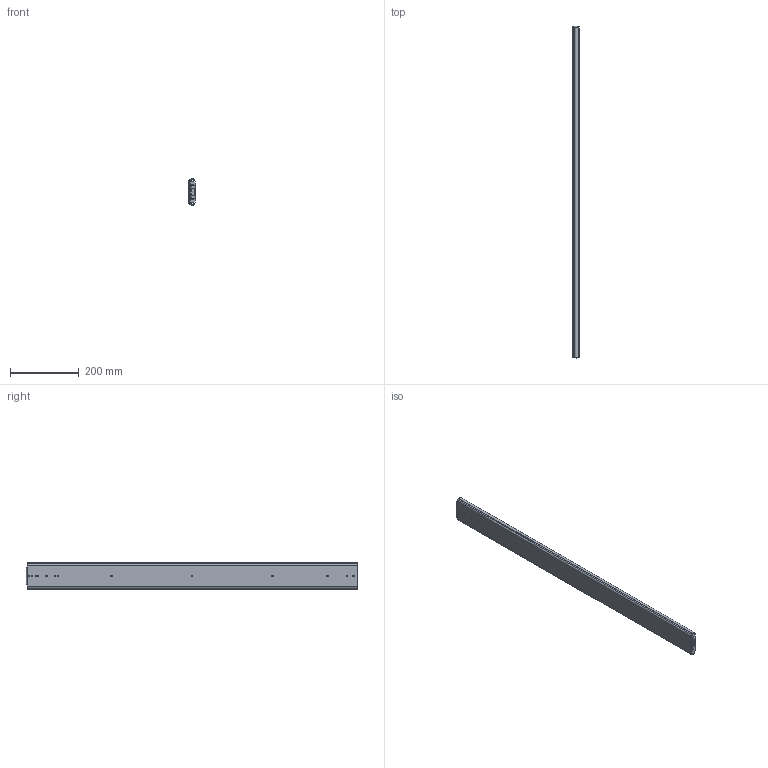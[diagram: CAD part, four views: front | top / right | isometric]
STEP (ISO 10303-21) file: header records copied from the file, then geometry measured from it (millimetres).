
FILE_DESCRIPTION(/* description */ ('Unknown'),/* implementation_level */ '2;1');
FILE_NAME(/* name */ '76J01-38 close',/* time_stamp */ '2024-07-26T16:18:13+08:00',/* author */ ('Unknown'),/* organization */ ('Unknown'),/* preprocessor_version */ 'ST-DEVELOPER v18.104',/* originating_system */ 'Solid Edge',/* authorisation */ 'Unknown');
FILE_SCHEMA (('AUTOMOTIVE_DESIGN {1 0 10303 214 3 1 1}'));
Length unit declared in the file: millimetre
Products named in the file (4): 76J01-38 close; 76J01 38 inch 內; 76J01 38 吋; 76J01 38 嬪
Assembly tree (3 placements, depth 2):
  76J01-38 close
    76J01 38 inch 內
    76J01 38 吋
    76J01 38 嬪
Bounding box: 19.3 x 965.2 x 76.76 mm (x, y, z)
Volume: 759335 mm3; surface area: 472725.4 mm2
Topology: 3 solids, 3 shells, 193 faces, 595 edges, 402 vertices
Faces by surface type: plane 104, cylinder 89
Full cylindrical faces by diameter (mm): 5.2 x14, 7.1 x2
Entity records: 7062 total; most frequent: CARTESIAN_POINT 1149, DIRECTION 1135, ORIENTED_EDGE 1126, EDGE_CURVE 563, VERTEX_POINT 386, LINE 383, VECTOR 383, AXIS2_PLACEMENT_3D 376
